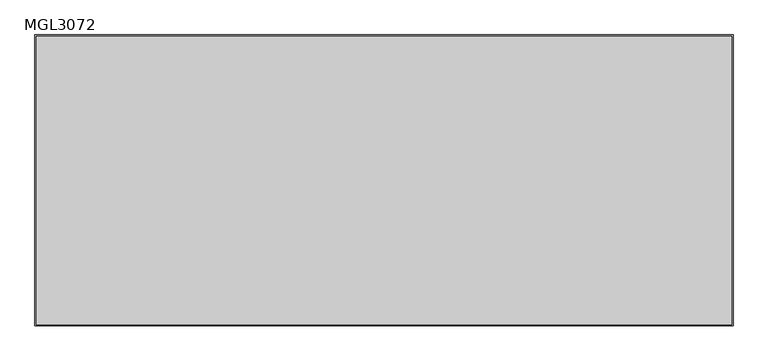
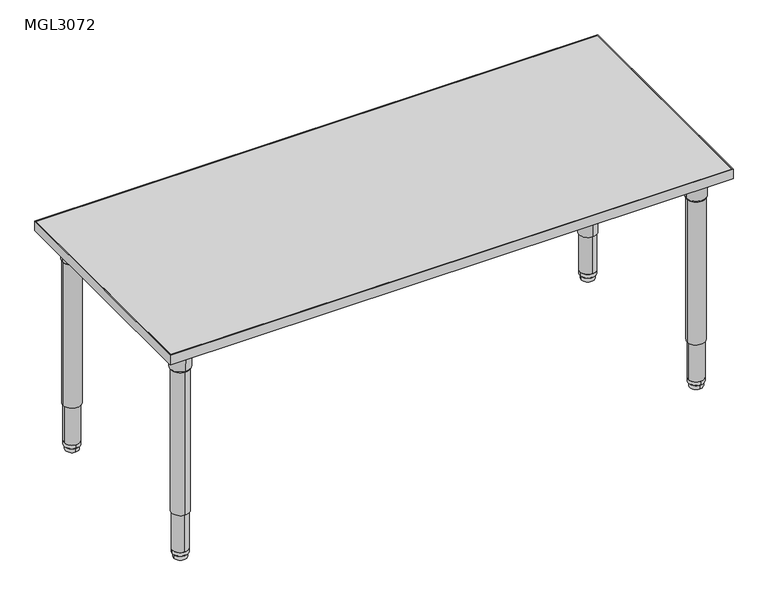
"""IFC4 building model written with IfcOpenShell, lengths in millimetres: furniture geometry, ERG-Mingle-Table-Rectangle : MGL3072."""

from ifc_helpers import new_model, si_unit, point, frame, frame_2d, origin, place, context, project, spatial, polyline, circle_curve, trimmed, segment, composite_curve, outline, extrude, source, transform, mapped, element, save
from ifc_brep_helpers import plane_surface, cylinder_surface, revolved_surface, advanced_brep


def mgl3072_897ac57b(model_context):
    return source(origin(), model_context, "Body", "SolidModel", [
        advanced_brep(
        [(808.1646842, -304.8, 650.5933069), (868.2353158, -304.8, 650.5933069), (838.2, -304.8, 650.5933069), (806.056117, -304.8, 654.3580481), (870.343883, -304.8, 654.3580481), (805.1206351, -304.8, 707.7631458), (871.2793649, -304.8, 707.7631458), (801.671083, -304.8, 714.1198315), (874.728917, -304.8, 714.1198315), (801.671083, -304.8, 726.8198315), (874.728917, -304.8, 726.8198315), (838.2, -304.8, 726.8198315)],
        [
            (0, 1, circle_curve(frame((838.2, -304.8, 650.5933069), z_axis=(0.0, 0.0, -1.0), x_axis=(1.0, 0.0, 0.0)), 30.0353158)),
            (1, 2),
            (2, 0),
            (1, 0, circle_curve(frame((838.2, -304.8, 650.5933069), z_axis=(0.0, 0.0, -1.0), x_axis=(1.0, 0.0, 0.0)), 30.0353158)),
            (3, 4, circle_curve(frame((838.2, -304.8, 654.3580481), z_axis=(0.0, 0.0, -1.0), x_axis=(1.0, 0.0, 0.0)), 32.143883)),
            (4, 1),
            (0, 3),
            (4, 3, circle_curve(frame((838.2, -304.8, 654.3580481), z_axis=(0.0, 0.0, -1.0), x_axis=(1.0, 0.0, 0.0)), 32.143883)),
            (5, 6, circle_curve(frame((838.2, -304.8, 707.7631458), z_axis=(0.0, 0.0, -1.0), x_axis=(1.0, 0.0, 0.0)), 33.0793649)),
            (6, 4),
            (3, 5),
            (6, 5, circle_curve(frame((838.2, -304.8, 707.7631458), z_axis=(0.0, 0.0, -1.0), x_axis=(1.0, 0.0, 0.0)), 33.0793649)),
            (7, 8, circle_curve(frame((838.2, -304.8, 714.1198315), z_axis=(0.0, 0.0, -1.0), x_axis=(1.0, 0.0, 0.0)), 36.528917)),
            (8, 6),
            (5, 7),
            (8, 7, circle_curve(frame((838.2, -304.8, 714.1198315), z_axis=(0.0, 0.0, -1.0), x_axis=(1.0, 0.0, 0.0)), 36.528917)),
            (9, 10, circle_curve(frame((838.2, -304.8, 726.8198315), z_axis=(0.0, 0.0, -1.0), x_axis=(1.0, 0.0, 0.0)), 36.528917)),
            (10, 8),
            (7, 9),
            (10, 9, circle_curve(frame((838.2, -304.8, 726.8198315), z_axis=(0.0, 0.0, -1.0), x_axis=(1.0, 0.0, 0.0)), 36.528917)),
            (11, 10),
            (9, 11),
        ],
        [
            plane_surface(frame((838.2, -304.8, 650.5933069), z_axis=(0.0, 0.0, -1.0), x_axis=(1.0, 0.0, 0.0))),
            revolved_surface(polyline([(868.2353158, -304.8, 650.5933069), (870.343883, -304.8, 654.3580481)]), (838.2, -304.8, 726.8198315), (0.0, 0.0, 1.0)),
            revolved_surface(polyline([(870.343883, -304.8, 654.3580481), (871.2793649, -304.8, 707.7631458)]), (838.2, -304.8, 726.8198315), (0.0, 0.0, 1.0)),
            revolved_surface(polyline([(871.2793649, -304.8, 707.7631458), (874.728917, -304.8, 714.1198315)]), (838.2, -304.8, 726.8198315), (0.0, 0.0, 1.0)),
            cylinder_surface(frame((838.2, -304.8, 726.8198315), z_axis=(0.0, 0.0, 1.0), x_axis=(1.0, 0.0, 0.0)), 36.528917),
            plane_surface(frame((838.2, -304.8, 726.8198315), z_axis=(0.0, 0.0, 1.0), x_axis=(1.0, 0.0, 0.0))),
        ],
        [
            (0, [[1, 2, 3]]),
            (0, [[4, -3, -2]]),
            (1, [[5, 6, -1, 7]]),
            (1, [[8, -7, -4, -6]]),
            (2, [[9, 10, -5, 11]]),
            (2, [[12, -11, -8, -10]]),
            (3, [[13, 14, -9, 15]]),
            (3, [[16, -15, -12, -14]]),
            (4, [[17, 18, -13, 19]]),
            (4, [[20, -19, -16, -18]]),
            (5, [[21, -17, 22]]),
            (5, [[-22, -20, -21]]),
        ],
    ),
        extrude(outline(composite_curve([segment(polyline([(884.073768, -222.2223426), (884.073768, -335.9483754)]), True, "CONTINUOUS"), segment(trimmed(circle_curve(frame_2d((868.198768, -335.9483754)), 15.875), [point((884.073768, -335.9483754))], [point((868.198768, -351.8233754))], False, "CARTESIAN"), True, "CONTINUOUS"), segment(polyline([(868.198768, -351.8233754), (754.4864205, -351.8233754)]), True, "CONTINUOUS"), segment(trimmed(circle_curve(frame_2d((754.4864205, -339.1233754)), 12.7), [point((754.4864205, -351.8233754))], [point((741.8491923, -337.8622394))], False, "CARTESIAN"), True, "CONTINUOUS"), segment(trimmed(circle_curve(frame_2d((884.3486077, -352.0830117)), 143.2072406), [point((741.8491923, -337.8622394))], [point((870.1111525, -209.5852622))], False, "CARTESIAN"), True, "CONTINUOUS"), segment(trimmed(circle_curve(frame_2d((871.373768, -222.2223426)), 12.7), [point((870.1111525, -209.5852622))], [point((884.073768, -222.2223426))], False, "CARTESIAN"), True, "CONTINUOUS")], self_intersect=False)), frame((0.0, 0.0, 726.8198315), z_axis=(0.0, 0.0, 1.0), x_axis=(1.0, 0.0, 0.0)), (0.0, 0.0, 1.0), 3.4301685),
        extrude(outline(composite_curve([segment(trimmed(circle_curve(frame_2d((838.2, -304.8)), 28.575), [point((866.775, -304.8))], [point((809.625, -304.8))], False, "CARTESIAN"), True, "CONTINUOUS"), segment(trimmed(circle_curve(frame_2d((838.2, -304.8)), 28.575), [point((809.625, -304.8))], [point((866.775, -304.8))], False, "CARTESIAN"), True, "CONTINUOUS")], self_intersect=False)), frame((0.0, 0.0, 158.3876979), z_axis=(0.0, 0.0, 1.0), x_axis=(1.0, 0.0, 0.0)), (0.0, 0.0, 1.0), 495.4089866),
        extrude(outline(composite_curve([segment(trimmed(circle_curve(frame_2d((838.2, -304.8)), 25.4), [point((863.6, -304.8))], [point((812.8, -304.8))], False, "CARTESIAN"), True, "CONTINUOUS"), segment(trimmed(circle_curve(frame_2d((838.2, -304.8)), 25.4), [point((812.8, -304.8))], [point((863.6, -304.8))], False, "CARTESIAN"), True, "CONTINUOUS")], self_intersect=False)), frame((0.0, 0.0, 28.9580435), z_axis=(0.0, 0.0, 1.0), x_axis=(1.0, 0.0, 0.0)), (0.0, 0.0, 1.0), 176.7049119),
        advanced_brep(
        [(838.2, -279.5649896, 28.9580185), (838.2, -330.0350104, 28.9580185), (838.2, -304.8, 28.9580185), (838.2, -279.700761, 16.3032949), (838.2, -329.899239, 16.3032949), (838.2, -281.2160619, 14.7291007), (838.2, -328.3839381, 14.7291007), (838.2, -283.6591422, 14.7291007), (838.2, -325.9408578, 14.7291007), (838.2, -283.8521336, 0.0), (838.2, -325.7478664, 0.0), (838.2, -304.8, 0.0)],
        [
            (0, 1, circle_curve(frame((838.2, -304.8, 28.9580185), z_axis=(0.0, 0.0, 1.0), x_axis=(0.0, -1.0, 0.0)), 25.2350104)),
            (1, 2),
            (2, 0),
            (1, 0, circle_curve(frame((838.2, -304.8, 28.9580185), z_axis=(0.0, 0.0, 1.0), x_axis=(0.0, -1.0, 0.0)), 25.2350104)),
            (3, 4, circle_curve(frame((838.2, -304.8, 16.3032949), z_axis=(0.0, 0.0, 1.0), x_axis=(0.0, -1.0, 0.0)), 25.099239)),
            (4, 1),
            (0, 3),
            (4, 3, circle_curve(frame((838.2, -304.8, 16.3032949), z_axis=(0.0, 0.0, 1.0), x_axis=(0.0, -1.0, 0.0)), 25.099239)),
            (5, 6, circle_curve(frame((838.2, -304.8, 14.7291007), z_axis=(0.0, 0.0, 1.0), x_axis=(0.0, -1.0, 0.0)), 23.5839381)),
            (6, 4),
            (3, 5),
            (6, 5, circle_curve(frame((838.2, -304.8, 14.7291007), z_axis=(0.0, 0.0, 1.0), x_axis=(0.0, -1.0, 0.0)), 23.5839381)),
            (7, 8, circle_curve(frame((838.2, -304.8, 14.7291007), z_axis=(0.0, 0.0, 1.0), x_axis=(0.0, -1.0, 0.0)), 21.1408578)),
            (8, 6),
            (5, 7),
            (8, 7, circle_curve(frame((838.2, -304.8, 14.7291007), z_axis=(0.0, 0.0, 1.0), x_axis=(0.0, -1.0, 0.0)), 21.1408578)),
            (9, 10, circle_curve(frame((838.2, -304.8, 0.0), z_axis=(0.0, 0.0, 1.0), x_axis=(0.0, -1.0, 0.0)), 20.9478664)),
            (10, 8),
            (7, 9),
            (10, 9, circle_curve(frame((838.2, -304.8, 0.0), z_axis=(0.0, 0.0, 1.0), x_axis=(0.0, -1.0, 0.0)), 20.9478664)),
            (11, 10),
            (9, 11),
        ],
        [
            plane_surface(frame((838.2, -304.8, 28.9580185), z_axis=(0.0, 0.0, 1.0), x_axis=(0.0, -1.0, 0.0))),
            revolved_surface(polyline([(838.2, -330.0350104, 28.9580185), (838.2, -329.899239, 16.3032949)]), (838.2, -304.8, 0.0), (0.0, 0.0, -1.0)),
            revolved_surface(polyline([(838.2, -329.899239, 16.3032949), (838.2, -328.3839381, 14.7291007)]), (838.2, -304.8, 0.0), (0.0, 0.0, -1.0)),
            plane_surface(frame((838.2, -304.8, 14.7291007), z_axis=(0.0, 0.0, -1.0), x_axis=(0.0, -1.0, 0.0))),
            revolved_surface(polyline([(838.2, -325.9408578, 14.7291007), (838.2, -325.7478664, 0.0)]), (838.2, -304.8, 0.0), (0.0, 0.0, -1.0)),
            plane_surface(frame((838.2, -304.8, 0.0), z_axis=(0.0, 0.0, -1.0), x_axis=(0.0, -1.0, 0.0))),
        ],
        [
            (0, [[1, 2, 3]]),
            (0, [[4, -3, -2]]),
            (1, [[5, 6, -1, 7]]),
            (1, [[8, -7, -4, -6]]),
            (2, [[9, 10, -5, 11]]),
            (2, [[12, -11, -8, -10]]),
            (3, [[13, 14, -9, 15]]),
            (3, [[16, -15, -12, -14]]),
            (4, [[17, 18, -13, 19]]),
            (4, [[20, -19, -16, -18]]),
            (5, [[21, -17, 22]]),
            (5, [[-22, -20, -21]]),
        ],
    ),
        advanced_brep(
        [(-838.2, -274.7646842, 650.5933069), (-838.2, -334.8353158, 650.5933069), (-838.2, -304.8, 650.5933069), (-838.2, -272.656117, 654.3580481), (-838.2, -336.943883, 654.3580481), (-838.2, -271.7206351, 707.7631458), (-838.2, -337.8793649, 707.7631458), (-838.2, -268.271083, 714.1198315), (-838.2, -341.328917, 714.1198315), (-838.2, -268.271083, 726.8198315), (-838.2, -341.328917, 726.8198315), (-838.2, -304.8, 726.8198315)],
        [
            (0, 1, circle_curve(frame((-838.2, -304.8, 650.5933069), z_axis=(0.0, 0.0, -1.0), x_axis=(0.0, -1.0, 0.0)), 30.0353158)),
            (1, 2),
            (2, 0),
            (1, 0, circle_curve(frame((-838.2, -304.8, 650.5933069), z_axis=(0.0, 0.0, -1.0), x_axis=(0.0, -1.0, 0.0)), 30.0353158)),
            (3, 4, circle_curve(frame((-838.2, -304.8, 654.3580481), z_axis=(0.0, 0.0, -1.0), x_axis=(0.0, -1.0, 0.0)), 32.143883)),
            (4, 1),
            (0, 3),
            (4, 3, circle_curve(frame((-838.2, -304.8, 654.3580481), z_axis=(0.0, 0.0, -1.0), x_axis=(0.0, -1.0, 0.0)), 32.143883)),
            (5, 6, circle_curve(frame((-838.2, -304.8, 707.7631458), z_axis=(0.0, 0.0, -1.0), x_axis=(0.0, -1.0, 0.0)), 33.0793649)),
            (6, 4),
            (3, 5),
            (6, 5, circle_curve(frame((-838.2, -304.8, 707.7631458), z_axis=(0.0, 0.0, -1.0), x_axis=(0.0, -1.0, 0.0)), 33.0793649)),
            (7, 8, circle_curve(frame((-838.2, -304.8, 714.1198315), z_axis=(0.0, 0.0, -1.0), x_axis=(0.0, -1.0, 0.0)), 36.528917)),
            (8, 6),
            (5, 7),
            (8, 7, circle_curve(frame((-838.2, -304.8, 714.1198315), z_axis=(0.0, 0.0, -1.0), x_axis=(0.0, -1.0, 0.0)), 36.528917)),
            (9, 10, circle_curve(frame((-838.2, -304.8, 726.8198315), z_axis=(0.0, 0.0, -1.0), x_axis=(0.0, -1.0, 0.0)), 36.528917)),
            (10, 8),
            (7, 9),
            (10, 9, circle_curve(frame((-838.2, -304.8, 726.8198315), z_axis=(0.0, 0.0, -1.0), x_axis=(0.0, -1.0, 0.0)), 36.528917)),
            (11, 10),
            (9, 11),
        ],
        [
            plane_surface(frame((-838.2, -304.8, 650.5933069), z_axis=(0.0, 0.0, -1.0), x_axis=(0.0, -1.0, 0.0))),
            revolved_surface(polyline([(-838.2, -334.8353158, 650.5933069), (-838.2, -336.943883, 654.3580481)]), (-838.2, -304.8, 726.8198315), (0.0, 0.0, 1.0)),
            revolved_surface(polyline([(-838.2, -336.943883, 654.3580481), (-838.2, -337.8793649, 707.7631458)]), (-838.2, -304.8, 726.8198315), (0.0, 0.0, 1.0)),
            revolved_surface(polyline([(-838.2, -337.8793649, 707.7631458), (-838.2, -341.328917, 714.1198315)]), (-838.2, -304.8, 726.8198315), (0.0, 0.0, 1.0)),
            cylinder_surface(frame((-838.2, -304.8, 726.8198315), z_axis=(0.0, 0.0, 1.0), x_axis=(0.0, -1.0, 0.0)), 36.528917),
            plane_surface(frame((-838.2, -304.8, 726.8198315), z_axis=(0.0, 0.0, 1.0), x_axis=(0.0, -1.0, 0.0))),
        ],
        [
            (0, [[1, 2, 3]]),
            (0, [[4, -3, -2]]),
            (1, [[5, 6, -1, 7]]),
            (1, [[8, -7, -4, -6]]),
            (2, [[9, 10, -5, 11]]),
            (2, [[12, -11, -8, -10]]),
            (3, [[13, 14, -9, 15]]),
            (3, [[16, -15, -12, -14]]),
            (4, [[17, 18, -13, 19]]),
            (4, [[20, -19, -16, -18]]),
            (5, [[21, -17, 22]]),
            (5, [[-22, -20, -21]]),
        ],
    ),
        extrude(outline(composite_curve([segment(polyline([(-755.6223426, -350.673768), (-869.3483754, -350.673768)]), True, "CONTINUOUS"), segment(trimmed(circle_curve(frame_2d((-869.3483754, -334.798768)), 15.875), [point((-869.3483754, -350.673768))], [point((-885.2233754, -334.798768))], False, "CARTESIAN"), True, "CONTINUOUS"), segment(polyline([(-885.2233754, -334.798768), (-885.2233754, -221.0864205)]), True, "CONTINUOUS"), segment(trimmed(circle_curve(frame_2d((-872.5233754, -221.0864205)), 12.7), [point((-885.2233754, -221.0864205))], [point((-871.2622394, -208.4491923))], False, "CARTESIAN"), True, "CONTINUOUS"), segment(trimmed(circle_curve(frame_2d((-885.4830117, -350.9486077)), 143.2072406), [point((-871.2622394, -208.4491923))], [point((-742.9852622, -336.7111525))], False, "CARTESIAN"), True, "CONTINUOUS"), segment(trimmed(circle_curve(frame_2d((-755.6223426, -337.973768)), 12.7), [point((-742.9852622, -336.7111525))], [point((-755.6223426, -350.673768))], False, "CARTESIAN"), True, "CONTINUOUS")], self_intersect=False)), frame((0.0, 0.0, 726.8198315), z_axis=(0.0, 0.0, 1.0), x_axis=(1.0, 0.0, 0.0)), (0.0, 0.0, 1.0), 3.4301685),
        extrude(outline(composite_curve([segment(trimmed(circle_curve(frame_2d((-838.2, -304.8)), 28.575), [point((-838.2, -333.375))], [point((-838.2, -276.225))], False, "CARTESIAN"), True, "CONTINUOUS"), segment(trimmed(circle_curve(frame_2d((-838.2, -304.8)), 28.575), [point((-838.2, -276.225))], [point((-838.2, -333.375))], False, "CARTESIAN"), True, "CONTINUOUS")], self_intersect=False)), frame((0.0, 0.0, 158.3876979), z_axis=(0.0, 0.0, 1.0), x_axis=(1.0, 0.0, 0.0)), (0.0, 0.0, 1.0), 495.4089866),
        extrude(outline(composite_curve([segment(trimmed(circle_curve(frame_2d((-838.2, -304.8)), 25.4), [point((-838.2, -330.2))], [point((-838.2, -279.4))], False, "CARTESIAN"), True, "CONTINUOUS"), segment(trimmed(circle_curve(frame_2d((-838.2, -304.8)), 25.4), [point((-838.2, -279.4))], [point((-838.2, -330.2))], False, "CARTESIAN"), True, "CONTINUOUS")], self_intersect=False)), frame((0.0, 0.0, 28.9580435), z_axis=(0.0, 0.0, 1.0), x_axis=(1.0, 0.0, 0.0)), (0.0, 0.0, 1.0), 176.7049119),
        advanced_brep(
        [(-812.9649896, -304.8, 28.9580185), (-863.4350104, -304.8, 28.9580185), (-838.2, -304.8, 28.9580185), (-813.100761, -304.8, 16.3032949), (-863.299239, -304.8, 16.3032949), (-814.6160619, -304.8, 14.7291007), (-861.7839381, -304.8, 14.7291007), (-817.0591422, -304.8, 14.7291007), (-859.3408578, -304.8, 14.7291007), (-817.2521336, -304.8, 0.0), (-859.1478664, -304.8, 0.0), (-838.2, -304.8, 0.0)],
        [
            (0, 1, circle_curve(frame((-838.2, -304.8, 28.9580185), z_axis=(0.0, 0.0, 1.0), x_axis=(-1.0, 0.0, 0.0)), 25.2350104)),
            (1, 2),
            (2, 0),
            (1, 0, circle_curve(frame((-838.2, -304.8, 28.9580185), z_axis=(0.0, 0.0, 1.0), x_axis=(-1.0, 0.0, 0.0)), 25.2350104)),
            (3, 4, circle_curve(frame((-838.2, -304.8, 16.3032949), z_axis=(0.0, 0.0, 1.0), x_axis=(-1.0, 0.0, 0.0)), 25.099239)),
            (4, 1),
            (0, 3),
            (4, 3, circle_curve(frame((-838.2, -304.8, 16.3032949), z_axis=(0.0, 0.0, 1.0), x_axis=(-1.0, 0.0, 0.0)), 25.099239)),
            (5, 6, circle_curve(frame((-838.2, -304.8, 14.7291007), z_axis=(0.0, 0.0, 1.0), x_axis=(-1.0, 0.0, 0.0)), 23.5839381)),
            (6, 4),
            (3, 5),
            (6, 5, circle_curve(frame((-838.2, -304.8, 14.7291007), z_axis=(0.0, 0.0, 1.0), x_axis=(-1.0, 0.0, 0.0)), 23.5839381)),
            (7, 8, circle_curve(frame((-838.2, -304.8, 14.7291007), z_axis=(0.0, 0.0, 1.0), x_axis=(-1.0, 0.0, 0.0)), 21.1408578)),
            (8, 6),
            (5, 7),
            (8, 7, circle_curve(frame((-838.2, -304.8, 14.7291007), z_axis=(0.0, 0.0, 1.0), x_axis=(-1.0, 0.0, 0.0)), 21.1408578)),
            (9, 10, circle_curve(frame((-838.2, -304.8, 0.0), z_axis=(0.0, 0.0, 1.0), x_axis=(-1.0, 0.0, 0.0)), 20.9478664)),
            (10, 8),
            (7, 9),
            (10, 9, circle_curve(frame((-838.2, -304.8, 0.0), z_axis=(0.0, 0.0, 1.0), x_axis=(-1.0, 0.0, 0.0)), 20.9478664)),
            (11, 10),
            (9, 11),
        ],
        [
            plane_surface(frame((-838.2, -304.8, 28.9580185), z_axis=(0.0, 0.0, 1.0), x_axis=(-1.0, 0.0, 0.0))),
            revolved_surface(polyline([(-863.4350104, -304.8, 28.9580185), (-863.299239, -304.8, 16.3032949)]), (-838.2, -304.8, 0.0), (0.0, 0.0, -1.0)),
            revolved_surface(polyline([(-863.299239, -304.8, 16.3032949), (-861.7839381, -304.8, 14.7291007)]), (-838.2, -304.8, 0.0), (0.0, 0.0, -1.0)),
            plane_surface(frame((-838.2, -304.8, 14.7291007), z_axis=(0.0, 0.0, -1.0), x_axis=(-1.0, 0.0, 0.0))),
            revolved_surface(polyline([(-859.3408578, -304.8, 14.7291007), (-859.1478664, -304.8, 0.0)]), (-838.2, -304.8, 0.0), (0.0, 0.0, -1.0)),
            plane_surface(frame((-838.2, -304.8, 0.0), z_axis=(0.0, 0.0, -1.0), x_axis=(-1.0, 0.0, 0.0))),
        ],
        [
            (0, [[1, 2, 3]]),
            (0, [[4, -3, -2]]),
            (1, [[5, 6, -1, 7]]),
            (1, [[8, -7, -4, -6]]),
            (2, [[9, 10, -5, 11]]),
            (2, [[12, -11, -8, -10]]),
            (3, [[13, 14, -9, 15]]),
            (3, [[16, -15, -12, -14]]),
            (4, [[17, 18, -13, 19]]),
            (4, [[20, -19, -16, -18]]),
            (5, [[21, -17, 22]]),
            (5, [[-22, -20, -21]]),
        ],
    ),
        advanced_brep(
        [(838.2, 274.7646842, 650.5933069), (838.2, 334.8353158, 650.5933069), (838.2, 304.8, 650.5933069), (838.2, 272.656117, 654.3580481), (838.2, 336.943883, 654.3580481), (838.2, 271.7206351, 707.7631458), (838.2, 337.8793649, 707.7631458), (838.2, 268.271083, 714.1198315), (838.2, 341.328917, 714.1198315), (838.2, 268.271083, 726.8198315), (838.2, 341.328917, 726.8198315), (838.2, 304.8, 726.8198315)],
        [
            (0, 1, circle_curve(frame((838.2, 304.8, 650.5933069), z_axis=(0.0, 0.0, -1.0), x_axis=(0.0, 1.0, 0.0)), 30.0353158)),
            (1, 2),
            (2, 0),
            (1, 0, circle_curve(frame((838.2, 304.8, 650.5933069), z_axis=(0.0, 0.0, -1.0), x_axis=(0.0, 1.0, 0.0)), 30.0353158)),
            (3, 4, circle_curve(frame((838.2, 304.8, 654.3580481), z_axis=(0.0, 0.0, -1.0), x_axis=(0.0, 1.0, 0.0)), 32.143883)),
            (4, 1),
            (0, 3),
            (4, 3, circle_curve(frame((838.2, 304.8, 654.3580481), z_axis=(0.0, 0.0, -1.0), x_axis=(0.0, 1.0, 0.0)), 32.143883)),
            (5, 6, circle_curve(frame((838.2, 304.8, 707.7631458), z_axis=(0.0, 0.0, -1.0), x_axis=(0.0, 1.0, 0.0)), 33.0793649)),
            (6, 4),
            (3, 5),
            (6, 5, circle_curve(frame((838.2, 304.8, 707.7631458), z_axis=(0.0, 0.0, -1.0), x_axis=(0.0, 1.0, 0.0)), 33.0793649)),
            (7, 8, circle_curve(frame((838.2, 304.8, 714.1198315), z_axis=(0.0, 0.0, -1.0), x_axis=(0.0, 1.0, 0.0)), 36.528917)),
            (8, 6),
            (5, 7),
            (8, 7, circle_curve(frame((838.2, 304.8, 714.1198315), z_axis=(0.0, 0.0, -1.0), x_axis=(0.0, 1.0, 0.0)), 36.528917)),
            (9, 10, circle_curve(frame((838.2, 304.8, 726.8198315), z_axis=(0.0, 0.0, -1.0), x_axis=(0.0, 1.0, 0.0)), 36.528917)),
            (10, 8),
            (7, 9),
            (10, 9, circle_curve(frame((838.2, 304.8, 726.8198315), z_axis=(0.0, 0.0, -1.0), x_axis=(0.0, 1.0, 0.0)), 36.528917)),
            (11, 10),
            (9, 11),
        ],
        [
            plane_surface(frame((838.2, 304.8, 650.5933069), z_axis=(0.0, 0.0, -1.0), x_axis=(0.0, 1.0, 0.0))),
            revolved_surface(polyline([(838.2, 334.8353158, 650.5933069), (838.2, 336.943883, 654.3580481)]), (838.2, 304.8, 726.8198315), (0.0, 0.0, 1.0)),
            revolved_surface(polyline([(838.2, 336.943883, 654.3580481), (838.2, 337.8793649, 707.7631458)]), (838.2, 304.8, 726.8198315), (0.0, 0.0, 1.0)),
            revolved_surface(polyline([(838.2, 337.8793649, 707.7631458), (838.2, 341.328917, 714.1198315)]), (838.2, 304.8, 726.8198315), (0.0, 0.0, 1.0)),
            cylinder_surface(frame((838.2, 304.8, 726.8198315), z_axis=(0.0, 0.0, 1.0), x_axis=(0.0, 1.0, 0.0)), 36.528917),
            plane_surface(frame((838.2, 304.8, 726.8198315), z_axis=(0.0, 0.0, 1.0), x_axis=(0.0, 1.0, 0.0))),
        ],
        [
            (0, [[1, 2, 3]]),
            (0, [[4, -3, -2]]),
            (1, [[5, 6, -1, 7]]),
            (1, [[8, -7, -4, -6]]),
            (2, [[9, 10, -5, 11]]),
            (2, [[12, -11, -8, -10]]),
            (3, [[13, 14, -9, 15]]),
            (3, [[16, -15, -12, -14]]),
            (4, [[17, 18, -13, 19]]),
            (4, [[20, -19, -16, -18]]),
            (5, [[21, -17, 22]]),
            (5, [[-22, -20, -21]]),
        ],
    ),
        extrude(outline(composite_curve([segment(polyline([(755.6223426, 350.673768), (869.3483754, 350.673768)]), True, "CONTINUOUS"), segment(trimmed(circle_curve(frame_2d((869.3483754, 334.798768)), 15.875), [point((869.3483754, 350.673768))], [point((885.2233754, 334.798768))], False, "CARTESIAN"), True, "CONTINUOUS"), segment(polyline([(885.2233754, 334.798768), (885.2233754, 221.0864205)]), True, "CONTINUOUS"), segment(trimmed(circle_curve(frame_2d((872.5233754, 221.0864205)), 12.7), [point((885.2233754, 221.0864205))], [point((871.2622394, 208.4491923))], False, "CARTESIAN"), True, "CONTINUOUS"), segment(trimmed(circle_curve(frame_2d((885.4830117, 350.9486077)), 143.2072406), [point((871.2622394, 208.4491923))], [point((742.9852622, 336.7111525))], False, "CARTESIAN"), True, "CONTINUOUS"), segment(trimmed(circle_curve(frame_2d((755.6223426, 337.973768)), 12.7), [point((742.9852622, 336.7111525))], [point((755.6223426, 350.673768))], False, "CARTESIAN"), True, "CONTINUOUS")], self_intersect=False)), frame((0.0, 0.0, 726.8198315), z_axis=(0.0, 0.0, 1.0), x_axis=(1.0, 0.0, 0.0)), (0.0, 0.0, 1.0), 3.4301685),
        extrude(outline(composite_curve([segment(trimmed(circle_curve(frame_2d((838.2, 304.8)), 28.575), [point((838.2, 333.375))], [point((838.2, 276.225))], False, "CARTESIAN"), True, "CONTINUOUS"), segment(trimmed(circle_curve(frame_2d((838.2, 304.8)), 28.575), [point((838.2, 276.225))], [point((838.2, 333.375))], False, "CARTESIAN"), True, "CONTINUOUS")], self_intersect=False)), frame((0.0, 0.0, 158.3876979), z_axis=(0.0, 0.0, 1.0), x_axis=(1.0, 0.0, 0.0)), (0.0, 0.0, 1.0), 495.4089866),
        extrude(outline(composite_curve([segment(trimmed(circle_curve(frame_2d((838.2, 304.8)), 25.4), [point((838.2, 330.2))], [point((838.2, 279.4))], False, "CARTESIAN"), True, "CONTINUOUS"), segment(trimmed(circle_curve(frame_2d((838.2, 304.8)), 25.4), [point((838.2, 279.4))], [point((838.2, 330.2))], False, "CARTESIAN"), True, "CONTINUOUS")], self_intersect=False)), frame((0.0, 0.0, 28.9580435), z_axis=(0.0, 0.0, 1.0), x_axis=(1.0, 0.0, 0.0)), (0.0, 0.0, 1.0), 176.7049119),
        advanced_brep(
        [(812.9649896, 304.8, 28.9580185), (863.4350104, 304.8, 28.9580185), (838.2, 304.8, 28.9580185), (813.100761, 304.8, 16.3032949), (863.299239, 304.8, 16.3032949), (814.6160619, 304.8, 14.7291007), (861.7839381, 304.8, 14.7291007), (817.0591422, 304.8, 14.7291007), (859.3408578, 304.8, 14.7291007), (817.2521336, 304.8, 0.0), (859.1478664, 304.8, 0.0), (838.2, 304.8, 0.0)],
        [
            (0, 1, circle_curve(frame((838.2, 304.8, 28.9580185), z_axis=(0.0, 0.0, 1.0), x_axis=(1.0, 0.0, 0.0)), 25.2350104)),
            (1, 2),
            (2, 0),
            (1, 0, circle_curve(frame((838.2, 304.8, 28.9580185), z_axis=(0.0, 0.0, 1.0), x_axis=(1.0, 0.0, 0.0)), 25.2350104)),
            (3, 4, circle_curve(frame((838.2, 304.8, 16.3032949), z_axis=(0.0, 0.0, 1.0), x_axis=(1.0, 0.0, 0.0)), 25.099239)),
            (4, 1),
            (0, 3),
            (4, 3, circle_curve(frame((838.2, 304.8, 16.3032949), z_axis=(0.0, 0.0, 1.0), x_axis=(1.0, 0.0, 0.0)), 25.099239)),
            (5, 6, circle_curve(frame((838.2, 304.8, 14.7291007), z_axis=(0.0, 0.0, 1.0), x_axis=(1.0, 0.0, 0.0)), 23.5839381)),
            (6, 4),
            (3, 5),
            (6, 5, circle_curve(frame((838.2, 304.8, 14.7291007), z_axis=(0.0, 0.0, 1.0), x_axis=(1.0, 0.0, 0.0)), 23.5839381)),
            (7, 8, circle_curve(frame((838.2, 304.8, 14.7291007), z_axis=(0.0, 0.0, 1.0), x_axis=(1.0, 0.0, 0.0)), 21.1408578)),
            (8, 6),
            (5, 7),
            (8, 7, circle_curve(frame((838.2, 304.8, 14.7291007), z_axis=(0.0, 0.0, 1.0), x_axis=(1.0, 0.0, 0.0)), 21.1408578)),
            (9, 10, circle_curve(frame((838.2, 304.8, 0.0), z_axis=(0.0, 0.0, 1.0), x_axis=(1.0, 0.0, 0.0)), 20.9478664)),
            (10, 8),
            (7, 9),
            (10, 9, circle_curve(frame((838.2, 304.8, 0.0), z_axis=(0.0, 0.0, 1.0), x_axis=(1.0, 0.0, 0.0)), 20.9478664)),
            (11, 10),
            (9, 11),
        ],
        [
            plane_surface(frame((838.2, 304.8, 28.9580185), z_axis=(0.0, 0.0, 1.0), x_axis=(1.0, 0.0, 0.0))),
            revolved_surface(polyline([(863.4350104, 304.8, 28.9580185), (863.299239, 304.8, 16.3032949)]), (838.2, 304.8, 0.0), (0.0, 0.0, -1.0)),
            revolved_surface(polyline([(863.299239, 304.8, 16.3032949), (861.7839381, 304.8, 14.7291007)]), (838.2, 304.8, 0.0), (0.0, 0.0, -1.0)),
            plane_surface(frame((838.2, 304.8, 14.7291007), z_axis=(0.0, 0.0, -1.0), x_axis=(1.0, 0.0, 0.0))),
            revolved_surface(polyline([(859.3408578, 304.8, 14.7291007), (859.1478664, 304.8, 0.0)]), (838.2, 304.8, 0.0), (0.0, 0.0, -1.0)),
            plane_surface(frame((838.2, 304.8, 0.0), z_axis=(0.0, 0.0, -1.0), x_axis=(1.0, 0.0, 0.0))),
        ],
        [
            (0, [[1, 2, 3]]),
            (0, [[4, -3, -2]]),
            (1, [[5, 6, -1, 7]]),
            (1, [[8, -7, -4, -6]]),
            (2, [[9, 10, -5, 11]]),
            (2, [[12, -11, -8, -10]]),
            (3, [[13, 14, -9, 15]]),
            (3, [[16, -15, -12, -14]]),
            (4, [[17, 18, -13, 19]]),
            (4, [[20, -19, -16, -18]]),
            (5, [[21, -17, 22]]),
            (5, [[-22, -20, -21]]),
        ],
    ),
        advanced_brep(
        [(-808.1646842, 304.8, 650.5933069), (-868.2353158, 304.8, 650.5933069), (-838.2, 304.8, 650.5933069), (-806.056117, 304.8, 654.3580481), (-870.343883, 304.8, 654.3580481), (-805.1206351, 304.8, 707.7631458), (-871.2793649, 304.8, 707.7631458), (-801.671083, 304.8, 714.1198315), (-874.728917, 304.8, 714.1198315), (-801.671083, 304.8, 726.8198315), (-874.728917, 304.8, 726.8198315), (-838.2, 304.8, 726.8198315)],
        [
            (0, 1, circle_curve(frame((-838.2, 304.8, 650.5933069), z_axis=(0.0, 0.0, -1.0), x_axis=(-1.0, 0.0, 0.0)), 30.0353158)),
            (1, 2),
            (2, 0),
            (1, 0, circle_curve(frame((-838.2, 304.8, 650.5933069), z_axis=(0.0, 0.0, -1.0), x_axis=(-1.0, 0.0, 0.0)), 30.0353158)),
            (3, 4, circle_curve(frame((-838.2, 304.8, 654.3580481), z_axis=(0.0, 0.0, -1.0), x_axis=(-1.0, 0.0, 0.0)), 32.143883)),
            (4, 1),
            (0, 3),
            (4, 3, circle_curve(frame((-838.2, 304.8, 654.3580481), z_axis=(0.0, 0.0, -1.0), x_axis=(-1.0, 0.0, 0.0)), 32.143883)),
            (5, 6, circle_curve(frame((-838.2, 304.8, 707.7631458), z_axis=(0.0, 0.0, -1.0), x_axis=(-1.0, 0.0, 0.0)), 33.0793649)),
            (6, 4),
            (3, 5),
            (6, 5, circle_curve(frame((-838.2, 304.8, 707.7631458), z_axis=(0.0, 0.0, -1.0), x_axis=(-1.0, 0.0, 0.0)), 33.0793649)),
            (7, 8, circle_curve(frame((-838.2, 304.8, 714.1198315), z_axis=(0.0, 0.0, -1.0), x_axis=(-1.0, 0.0, 0.0)), 36.528917)),
            (8, 6),
            (5, 7),
            (8, 7, circle_curve(frame((-838.2, 304.8, 714.1198315), z_axis=(0.0, 0.0, -1.0), x_axis=(-1.0, 0.0, 0.0)), 36.528917)),
            (9, 10, circle_curve(frame((-838.2, 304.8, 726.8198315), z_axis=(0.0, 0.0, -1.0), x_axis=(-1.0, 0.0, 0.0)), 36.528917)),
            (10, 8),
            (7, 9),
            (10, 9, circle_curve(frame((-838.2, 304.8, 726.8198315), z_axis=(0.0, 0.0, -1.0), x_axis=(-1.0, 0.0, 0.0)), 36.528917)),
            (11, 10),
            (9, 11),
        ],
        [
            plane_surface(frame((-838.2, 304.8, 650.5933069), z_axis=(0.0, 0.0, -1.0), x_axis=(-1.0, 0.0, 0.0))),
            revolved_surface(polyline([(-868.2353158, 304.8, 650.5933069), (-870.343883, 304.8, 654.3580481)]), (-838.2, 304.8, 726.8198315), (0.0, 0.0, 1.0)),
            revolved_surface(polyline([(-870.343883, 304.8, 654.3580481), (-871.2793649, 304.8, 707.7631458)]), (-838.2, 304.8, 726.8198315), (0.0, 0.0, 1.0)),
            revolved_surface(polyline([(-871.2793649, 304.8, 707.7631458), (-874.728917, 304.8, 714.1198315)]), (-838.2, 304.8, 726.8198315), (0.0, 0.0, 1.0)),
            cylinder_surface(frame((-838.2, 304.8, 726.8198315), z_axis=(0.0, 0.0, 1.0), x_axis=(-1.0, 0.0, 0.0)), 36.528917),
            plane_surface(frame((-838.2, 304.8, 726.8198315), z_axis=(0.0, 0.0, 1.0), x_axis=(-1.0, 0.0, 0.0))),
        ],
        [
            (0, [[1, 2, 3]]),
            (0, [[4, -3, -2]]),
            (1, [[5, 6, -1, 7]]),
            (1, [[8, -7, -4, -6]]),
            (2, [[9, 10, -5, 11]]),
            (2, [[12, -11, -8, -10]]),
            (3, [[13, 14, -9, 15]]),
            (3, [[16, -15, -12, -14]]),
            (4, [[17, 18, -13, 19]]),
            (4, [[20, -19, -16, -18]]),
            (5, [[21, -17, 22]]),
            (5, [[-22, -20, -21]]),
        ],
    ),
        extrude(outline(composite_curve([segment(polyline([(-884.073768, 222.2223426), (-884.073768, 335.9483754)]), True, "CONTINUOUS"), segment(trimmed(circle_curve(frame_2d((-868.198768, 335.9483754)), 15.875), [point((-884.073768, 335.9483754))], [point((-868.198768, 351.8233754))], False, "CARTESIAN"), True, "CONTINUOUS"), segment(polyline([(-868.198768, 351.8233754), (-754.4864205, 351.8233754)]), True, "CONTINUOUS"), segment(trimmed(circle_curve(frame_2d((-754.4864205, 339.1233754)), 12.7), [point((-754.4864205, 351.8233754))], [point((-741.8491923, 337.8622394))], False, "CARTESIAN"), True, "CONTINUOUS"), segment(trimmed(circle_curve(frame_2d((-884.3486077, 352.0830117)), 143.2072406), [point((-741.8491923, 337.8622394))], [point((-870.1111525, 209.5852622))], False, "CARTESIAN"), True, "CONTINUOUS"), segment(trimmed(circle_curve(frame_2d((-871.373768, 222.2223426)), 12.7), [point((-870.1111525, 209.5852622))], [point((-884.073768, 222.2223426))], False, "CARTESIAN"), True, "CONTINUOUS")], self_intersect=False)), frame((0.0, 0.0, 726.8198315), z_axis=(0.0, 0.0, 1.0), x_axis=(1.0, 0.0, 0.0)), (0.0, 0.0, 1.0), 3.4301685),
        extrude(outline(composite_curve([segment(trimmed(circle_curve(frame_2d((-838.2, 304.8)), 28.575), [point((-866.775, 304.8))], [point((-809.625, 304.8))], False, "CARTESIAN"), True, "CONTINUOUS"), segment(trimmed(circle_curve(frame_2d((-838.2, 304.8)), 28.575), [point((-809.625, 304.8))], [point((-866.775, 304.8))], False, "CARTESIAN"), True, "CONTINUOUS")], self_intersect=False)), frame((0.0, 0.0, 158.3876979), z_axis=(0.0, 0.0, 1.0), x_axis=(1.0, 0.0, 0.0)), (0.0, 0.0, 1.0), 495.4089866),
        extrude(outline(composite_curve([segment(trimmed(circle_curve(frame_2d((-838.2, 304.8)), 25.4), [point((-863.6, 304.8))], [point((-812.8, 304.8))], False, "CARTESIAN"), True, "CONTINUOUS"), segment(trimmed(circle_curve(frame_2d((-838.2, 304.8)), 25.4), [point((-812.8, 304.8))], [point((-863.6, 304.8))], False, "CARTESIAN"), True, "CONTINUOUS")], self_intersect=False)), frame((0.0, 0.0, 28.9580435), z_axis=(0.0, 0.0, 1.0), x_axis=(1.0, 0.0, 0.0)), (0.0, 0.0, 1.0), 176.7049119),
        advanced_brep(
        [(-838.2, 279.5649896, 28.9580185), (-838.2, 330.0350104, 28.9580185), (-838.2, 304.8, 28.9580185), (-838.2, 279.700761, 16.3032949), (-838.2, 329.899239, 16.3032949), (-838.2, 281.2160619, 14.7291007), (-838.2, 328.3839381, 14.7291007), (-838.2, 283.6591422, 14.7291007), (-838.2, 325.9408578, 14.7291007), (-838.2, 283.8521336, 0.0), (-838.2, 325.7478664, 0.0), (-838.2, 304.8, 0.0)],
        [
            (0, 1, circle_curve(frame((-838.2, 304.8, 28.9580185), z_axis=(0.0, 0.0, 1.0), x_axis=(0.0, 1.0, 0.0)), 25.2350104)),
            (1, 2),
            (2, 0),
            (1, 0, circle_curve(frame((-838.2, 304.8, 28.9580185), z_axis=(0.0, 0.0, 1.0), x_axis=(0.0, 1.0, 0.0)), 25.2350104)),
            (3, 4, circle_curve(frame((-838.2, 304.8, 16.3032949), z_axis=(0.0, 0.0, 1.0), x_axis=(0.0, 1.0, 0.0)), 25.099239)),
            (4, 1),
            (0, 3),
            (4, 3, circle_curve(frame((-838.2, 304.8, 16.3032949), z_axis=(0.0, 0.0, 1.0), x_axis=(0.0, 1.0, 0.0)), 25.099239)),
            (5, 6, circle_curve(frame((-838.2, 304.8, 14.7291007), z_axis=(0.0, 0.0, 1.0), x_axis=(0.0, 1.0, 0.0)), 23.5839381)),
            (6, 4),
            (3, 5),
            (6, 5, circle_curve(frame((-838.2, 304.8, 14.7291007), z_axis=(0.0, 0.0, 1.0), x_axis=(0.0, 1.0, 0.0)), 23.5839381)),
            (7, 8, circle_curve(frame((-838.2, 304.8, 14.7291007), z_axis=(0.0, 0.0, 1.0), x_axis=(0.0, 1.0, 0.0)), 21.1408578)),
            (8, 6),
            (5, 7),
            (8, 7, circle_curve(frame((-838.2, 304.8, 14.7291007), z_axis=(0.0, 0.0, 1.0), x_axis=(0.0, 1.0, 0.0)), 21.1408578)),
            (9, 10, circle_curve(frame((-838.2, 304.8, 0.0), z_axis=(0.0, 0.0, 1.0), x_axis=(0.0, 1.0, 0.0)), 20.9478664)),
            (10, 8),
            (7, 9),
            (10, 9, circle_curve(frame((-838.2, 304.8, 0.0), z_axis=(0.0, 0.0, 1.0), x_axis=(0.0, 1.0, 0.0)), 20.9478664)),
            (11, 10),
            (9, 11),
        ],
        [
            plane_surface(frame((-838.2, 304.8, 28.9580185), z_axis=(0.0, 0.0, 1.0), x_axis=(0.0, 1.0, 0.0))),
            revolved_surface(polyline([(-838.2, 330.0350104, 28.9580185), (-838.2, 329.899239, 16.3032949)]), (-838.2, 304.8, 0.0), (0.0, 0.0, -1.0)),
            revolved_surface(polyline([(-838.2, 329.899239, 16.3032949), (-838.2, 328.3839381, 14.7291007)]), (-838.2, 304.8, 0.0), (0.0, 0.0, -1.0)),
            plane_surface(frame((-838.2, 304.8, 14.7291007), z_axis=(0.0, 0.0, -1.0), x_axis=(0.0, 1.0, 0.0))),
            revolved_surface(polyline([(-838.2, 325.9408578, 14.7291007), (-838.2, 325.7478664, 0.0)]), (-838.2, 304.8, 0.0), (0.0, 0.0, -1.0)),
            plane_surface(frame((-838.2, 304.8, 0.0), z_axis=(0.0, 0.0, -1.0), x_axis=(0.0, 1.0, 0.0))),
        ],
        [
            (0, [[1, 2, 3]]),
            (0, [[4, -3, -2]]),
            (1, [[5, 6, -1, 7]]),
            (1, [[8, -7, -4, -6]]),
            (2, [[9, 10, -5, 11]]),
            (2, [[12, -11, -8, -10]]),
            (3, [[13, 14, -9, 15]]),
            (3, [[16, -15, -12, -14]]),
            (4, [[17, 18, -13, 19]]),
            (4, [[20, -19, -16, -18]]),
            (5, [[21, -17, 22]]),
            (5, [[-22, -20, -21]]),
        ],
    ),
        extrude(outline(polyline([(-911.225, 377.825), (911.225, 377.825), (911.225, -377.825), (-911.225, -377.825), (-911.225, 377.825)])), frame((0.0, 0.0, 730.25), z_axis=(0.0, 0.0, 1.0), x_axis=(1.0, 0.0, 0.0)), (0.0, 0.0, 1.0), 31.75),
        extrude(outline(polyline([(914.4, -381.0), (-914.4, -381.0), (-914.4, 381.0), (914.4, 381.0), (914.4, -381.0)]), holes=[polyline([(911.225, 377.825), (-911.225, 377.825), (-911.225, -377.825), (911.225, -377.825), (911.225, 377.825)])]), frame((0.0, 0.0, 730.25), z_axis=(0.0, 0.0, 1.0), x_axis=(1.0, 0.0, 0.0)), (0.0, 0.0, 1.0), 31.75),
    ])


if __name__ == "__main__":
    model = new_model("IFC4")
    model_context = context("Model", 3, world=origin())
    ifc_project = project(units=[si_unit("LENGTHUNIT", "METRE", prefix="MILLI")], contexts=[model_context])
    site = spatial("IfcSite", under=ifc_project)
    building = spatial("IfcBuilding", under=site)
    placement = place(None, origin())
    mgl3072_shape = mgl3072_897ac57b(model_context)
    element("IfcFurniture", 1, ObjectType="ERG-Mingle-Table-Rectangle : MGL3072", at=placement, inside=building, context=model_context, shape_type="MappedRepresentation", body=[
        mapped(mgl3072_shape, transform((0.0, 0.0, 0.0), x_axis=(1.0, 0.0, 0.0), y_axis=(0.0, 1.0, 0.0), z_axis=(0.0, 0.0, 1.0))),
    ])
    save(model, "model.ifc")
